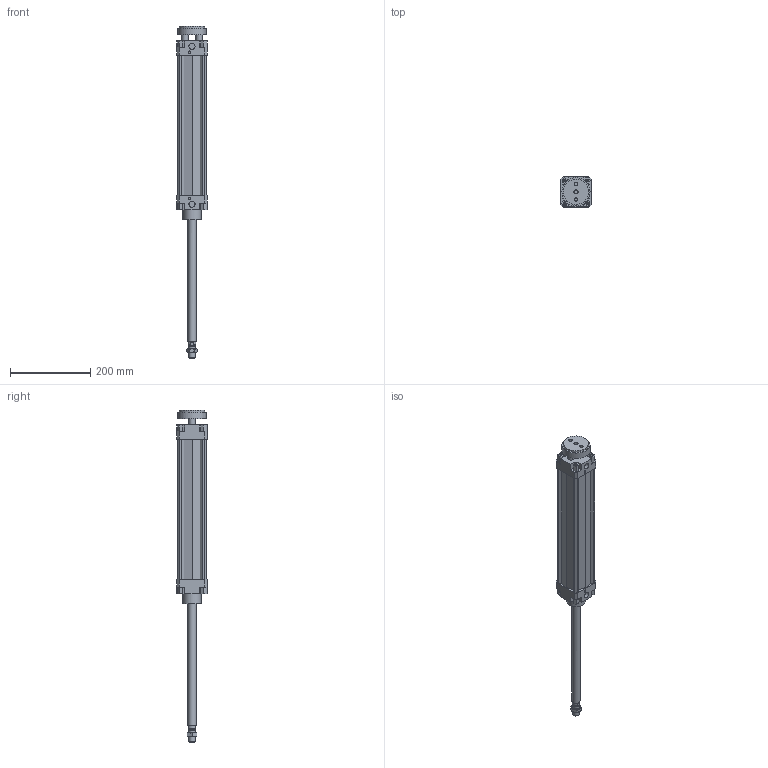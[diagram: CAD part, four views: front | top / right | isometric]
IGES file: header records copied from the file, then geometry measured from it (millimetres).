
Global section: file name: 132#_063_0300_02; native system: Autodesk Inventor 2014; preprocessor: unknown; author: A. Manieri; date: 20161006.160023; units: millimetre
Bounding box: 75 x 75 x 827 mm (x, y, z)
Volume: 1305792.4 mm3; surface area: 324098.2 mm2
Topology: 3 solids, 3 shells, 220 faces, 589 edges, 397 vertices
Faces by surface type: bspline 220
